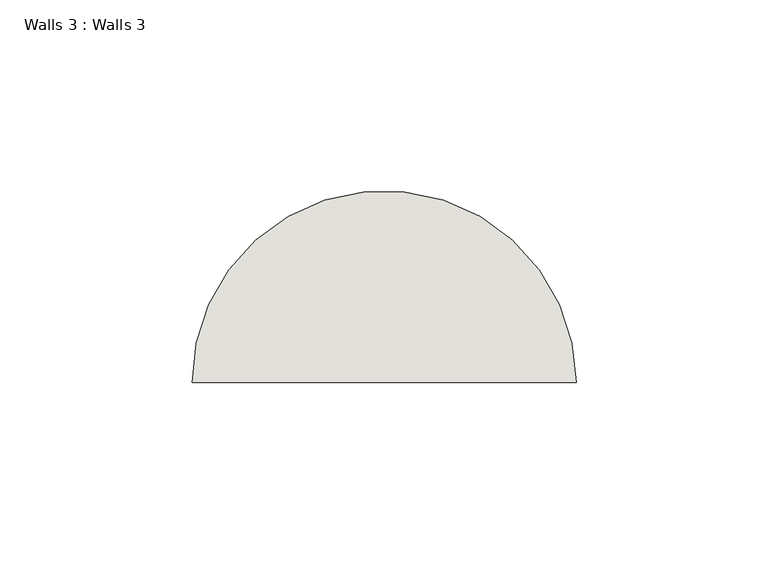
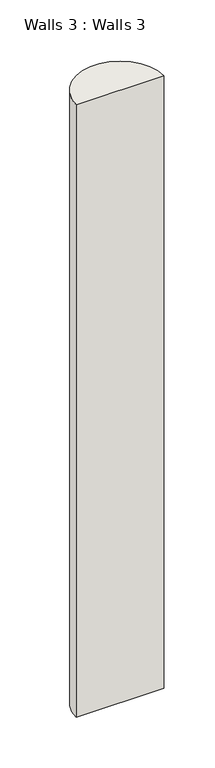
"""IFC4 building model written with IfcOpenShell, lengths in millimetres: wall geometry, Walls 3 : Walls 3."""

from ifc_helpers import new_model, si_unit, point, frame, frame_2d, origin, place, context, project, spatial, polyline, circle_curve, trimmed, segment, composite_curve, outline, extrude, source, transform, mapped, element, save


def walls_3_walls_3_5e097b37(model_context):
    return source(origin(), model_context, "Body", "SweptSolid", [
        extrude(outline(composite_curve([segment(trimmed(circle_curve(frame_2d((-8001.4546742, -1931.8810781)), 50.0), [point((-8051.4546742, -1931.8810781))], [point((-7951.4546742, -1931.8810781))], False, "CARTESIAN"), True, "CONTINUOUS"), segment(polyline([(-7951.4546742, -1931.8810781), (-8051.4546742, -1931.8810781)]), True, "CONTINUOUS")], self_intersect=False)), frame((0.0, 0.0, -1920.0), z_axis=(0.0, 0.0, 1.0), x_axis=(1.0, 0.0, 0.0)), (0.0, 0.0, 1.0), 735.91634),
    ])


if __name__ == "__main__":
    model = new_model("IFC4")
    model_context = context("Model", 3, world=origin())
    ifc_project = project(units=[si_unit("LENGTHUNIT", "METRE", prefix="MILLI")], contexts=[model_context])
    site = spatial("IfcSite", under=ifc_project)
    building = spatial("IfcBuilding", under=site)
    placement = place(None, origin())
    walls_3_walls_3_shape = walls_3_walls_3_5e097b37(model_context)
    element("IfcWall", 1, ObjectType="Walls 3 : Walls 3", at=placement, inside=building, context=model_context, shape_type="MappedRepresentation", body=[
        mapped(walls_3_walls_3_shape, transform((0.0, 0.0, 0.0), x_axis=(1.0, 0.0, 0.0), y_axis=(0.0, 1.0, 0.0), z_axis=(0.0, 0.0, 1.0))),
    ])
    save(model, "model.ifc")
